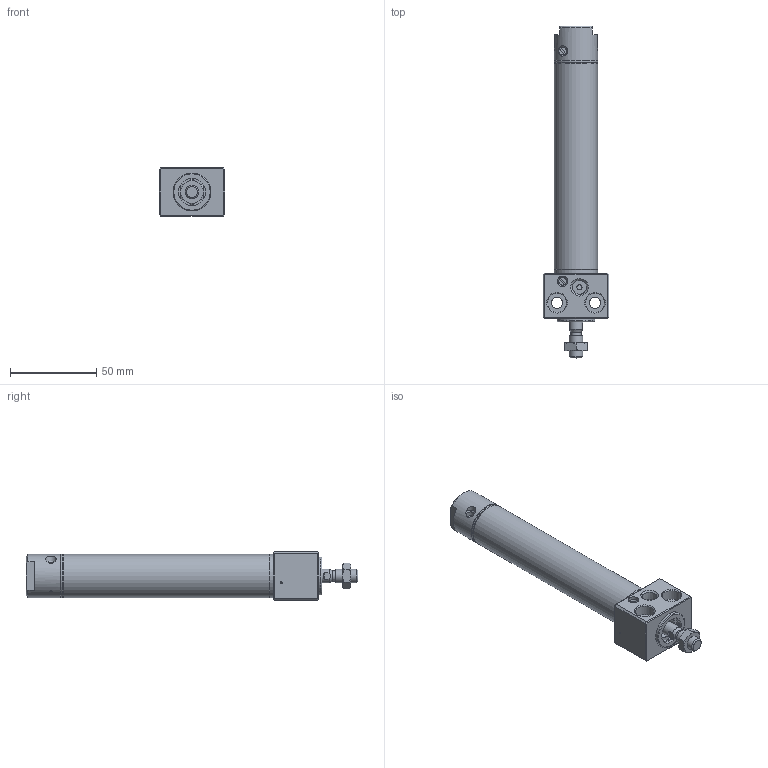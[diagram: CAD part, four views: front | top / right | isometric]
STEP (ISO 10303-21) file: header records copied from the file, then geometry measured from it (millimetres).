
FILE_DESCRIPTION((''),'2;1');
FILE_NAME('I:\3D電子目錄\氣缸\DBS\DBS\DBS20x75-C.stp','2007-10-08T08:30:57',('Administrator'),(''),'Autodesk Inventor 2008','Autodesk Inventor 2008','');
FILE_SCHEMA(('AUTOMOTIVE_DESIGN { 1 0 10303 214 1 1 1 1 }'));
Length unit declared in the file: millimetre
Products named in the file (1): DBS20x75-C
Bounding box: 38 x 192.6 x 28 mm (x, y, z)
Volume: 59886.6 mm3; surface area: 33829.6 mm2
Topology: 8 solids, 8 shells, 206 faces, 422 edges, 260 vertices
Faces by surface type: plane 91, cone 50, cylinder 49, bspline 13, torus 3
Full cylindrical faces by diameter (mm): 1.2 x1, 1.9 x2, 3 x3, 3.3 x2, 4.6 x2, 5 x3, 6 x4, 8 x3, 8.5 x1, 10 x1, 10.5 x2, 12 x3, 14.5 x2, 16 x2, 17 x1, 18 x2, 20 x1, 20.2 x2, 22 x1, 22.2 x6, 25 x4
Entity records: 5331 total; most frequent: CARTESIAN_POINT 1411, DIRECTION 818, ORIENTED_EDGE 632, AXIS2_PLACEMENT_3D 362, EDGE_LOOP 351, EDGE_CURVE 316, VERTEX_POINT 245, FACE_OUTER_BOUND 206
